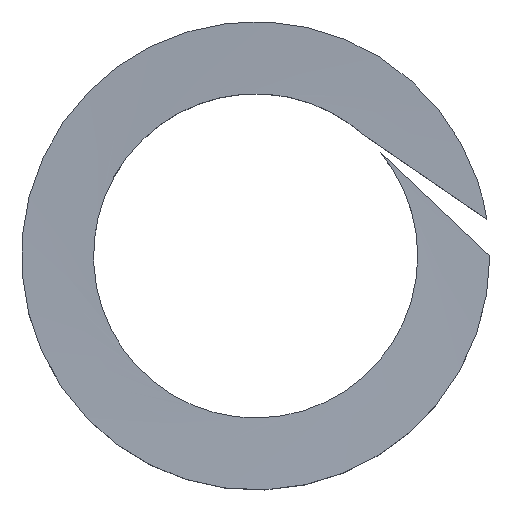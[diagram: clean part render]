
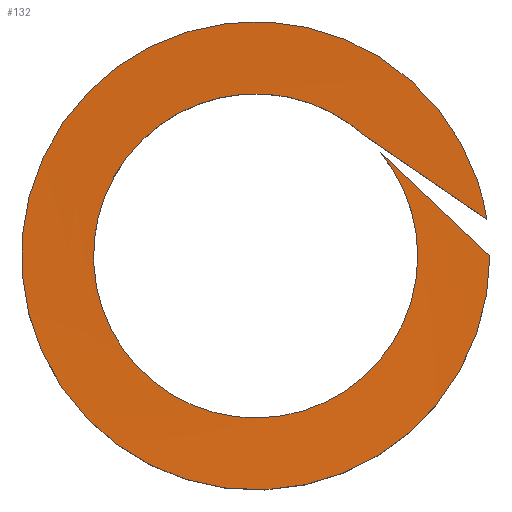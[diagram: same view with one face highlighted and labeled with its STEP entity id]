
A CAD part, top view. The second image highlights one B-rep face of the part: STEP entity #132.
In plain terms, the highlighted free-form (B-spline) face has degree [1, 2] with [2, 13] control points.
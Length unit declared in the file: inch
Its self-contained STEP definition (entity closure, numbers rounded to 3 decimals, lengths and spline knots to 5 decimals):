
#6 =( BOUNDED_CURVE ( )  B_SPLINE_CURVE ( 2, ( #47, #53, #45, #100, #40, #34, #56, #95, #32, #106, #84, #98, #105 ),
 .UNSPECIFIED., .F., .F. ) 
 B_SPLINE_CURVE_WITH_KNOTS ( ( 3, 2, 2, 2, 2, 2, 3 ),
 ( 0., 0.16667, 0.33333, 0.5, 0.66667, 0.83333, 1. ),
 .UNSPECIFIED. ) 
 CURVE ( )  GEOMETRIC_REPRESENTATION_ITEM ( )  RATIONAL_B_SPLINE_CURVE ( ( 1., 0.872, 1., 0.872, 1., 0.872, 1., 0.872, 1., 0.872, 1., 0.872, 1. ) ) 
 REPRESENTATION_ITEM ( '' )  );
#7 =( BOUNDED_CURVE ( )  B_SPLINE_CURVE ( 2, ( #75, #41, #39, #77, #42, #63, #74, #55, #163, #186, #216, #142, #140 ),
 .UNSPECIFIED., .F., .F. ) 
 B_SPLINE_CURVE_WITH_KNOTS ( ( 3, 2, 2, 2, 2, 2, 3 ),
 ( 0., 0.16667, 0.33333, 0.5, 0.66667, 0.83333, 1. ),
 .UNSPECIFIED. ) 
 CURVE ( )  GEOMETRIC_REPRESENTATION_ITEM ( )  RATIONAL_B_SPLINE_CURVE ( ( 1., 0.872, 1., 0.872, 1., 0.872, 1., 0.872, 1., 0.872, 1., 0.872, 1. ) ) 
 REPRESENTATION_ITEM ( '' )  );
#13 =( BOUNDED_SURFACE ( )  B_SPLINE_SURFACE ( 1, 2, ( 
 ( #224, #210, #188, #145, #205, #170, #214, #137, #157, #172, #197, #161, #227 ),
 ( #149, #182, #206, #192, #190, #166, #143, #159, #228, #141, #209, #144, #208 ) ),
 .UNSPECIFIED., .F., .F., .T. ) 
 B_SPLINE_SURFACE_WITH_KNOTS ( ( 2, 2 ),
 ( 3, 2, 2, 2, 2, 2, 3 ),
 ( 0., 1. ),
 ( 0., 0.16667, 0.33333, 0.5, 0.66667, 0.83333, 1. ),
 .UNSPECIFIED. ) 
 GEOMETRIC_REPRESENTATION_ITEM ( )  RATIONAL_B_SPLINE_SURFACE ( (
 ( 1., 0.872, 1., 0.872, 1., 0.872, 1., 0.872, 1., 0.872, 1., 0.872, 1.),
 ( 1., 0.872, 1., 0.872, 1., 0.872, 1., 0.872, 1., 0.872, 1., 0.872, 1.) ) ) 
 REPRESENTATION_ITEM ( '' )  SURFACE ( )  );
#18 = EDGE_CURVE ( 'NONE', #78, #82, #273, .T. ) ;
#19 = EDGE_CURVE ( 'NONE', #104, #73, #246, .T. ) ;
#22 = EDGE_CURVE ( 'NONE', #78, #104, #6, .T. ) ;
#27 = EDGE_CURVE ( 'NONE', #82, #73, #7, .T. ) ;
#32 = CARTESIAN_POINT ( 'NONE',  ( -0.05735, 0.01463, 0.02499 ) ) ;
#34 = CARTESIAN_POINT ( 'NONE',  ( -0.01934, -0.06503, 0.02255 ) ) ;
#39 = CARTESIAN_POINT ( 'NONE',  ( 0.04467, -0.0729, 0.02161 ) ) ;
#40 = CARTESIAN_POINT ( 'NONE',  ( 0.013, -0.05775, 0.02174 ) ) ;
#41 = CARTESIAN_POINT ( 'NONE',  ( 0.0855, -0.04788, 0.0208 ) ) ;
#42 = CARTESIAN_POINT ( 'NONE',  ( -0.03882, -0.07618, 0.02324 ) ) ;
#45 = CARTESIAN_POINT ( 'NONE',  ( 0.05603, -0.01909, 0.02011 ) ) ;
#47 = CARTESIAN_POINT ( 'NONE',  ( 0.04555, 0.0378, 0.01849 ) ) ;
#51 = CARTESIAN_POINT ( 'NONE',  ( 0.08445, 0.01338, 0.02974 ) ) ;
#53 = CARTESIAN_POINT ( 'NONE',  ( 0.06672, 0.01229, 0.0193 ) ) ;
#55 = CARTESIAN_POINT ( 'NONE',  ( -0.08899, 0.04103, 0.02567 ) ) ;
#56 = CARTESIAN_POINT ( 'NONE',  ( -0.04244, -0.04126, 0.02336 ) ) ;
#63 = CARTESIAN_POINT ( 'NONE',  ( -0.08148, -0.05444, 0.02405 ) ) ;
#73 = VERTEX_POINT ( 'NONE', #198 ) ;
#74 = CARTESIAN_POINT ( 'NONE',  ( -0.08524, -0.00671, 0.02486 ) ) ;
#75 = CARTESIAN_POINT ( 'NONE',  ( 0.0855, 0., 0.01999 ) ) ;
#77 = CARTESIAN_POINT ( 'NONE',  ( 0.00385, -0.09792, 0.02242 ) ) ;
#78 = VERTEX_POINT ( 'NONE', #191 ) ;
#82 = VERTEX_POINT ( 'NONE', #194 ) ;
#84 = CARTESIAN_POINT ( 'NONE',  ( -0.01749, 0.05655, 0.02661 ) ) ;
#86 = DIRECTION ( 'NONE',  ( 0.825, -0.565, 0.027 ) ) ;
#93 = DIRECTION ( 'NONE',  ( 0.726, -0.687, 0.027 ) ) ;
#95 = CARTESIAN_POINT ( 'NONE',  ( -0.06555, -0.01749, 0.02417 ) ) ;
#98 = CARTESIAN_POINT ( 'NONE',  ( 0.01418, 0.06634, 0.02742 ) ) ;
#99 = CARTESIAN_POINT ( 'NONE',  ( 0.0855, 0., 0.01999 ) ) ;
#100 = CARTESIAN_POINT ( 'NONE',  ( 0.04534, -0.05046, 0.02092 ) ) ;
#104 = VERTEX_POINT ( 'NONE', #148 ) ;
#105 = CARTESIAN_POINT ( 'NONE',  ( 0.03907, 0.04446, 0.02824 ) ) ;
#106 = CARTESIAN_POINT ( 'NONE',  ( -0.04916, 0.04675, 0.0258 ) ) ;
#117 = FACE_OUTER_BOUND ( 'NONE', #252, .T. ) ;
#132 = ADVANCED_FACE ( 'NONE', ( #117 ), #13, .F. ) ;
#137 = CARTESIAN_POINT ( 'NONE',  ( -0.06555, -0.01749, 0.02417 ) ) ;
#140 = CARTESIAN_POINT ( 'NONE',  ( 0.08445, 0.01338, 0.02974 ) ) ;
#141 = CARTESIAN_POINT ( 'NONE',  ( -0.01152, 0.09732, 0.0273 ) ) ;
#142 = CARTESIAN_POINT ( 'NONE',  ( 0.07696, 0.06067, 0.02892 ) ) ;
#143 = CARTESIAN_POINT ( 'NONE',  ( -0.08524, -0.00671, 0.02486 ) ) ;
#144 = CARTESIAN_POINT ( 'NONE',  ( 0.07696, 0.06067, 0.02892 ) ) ;
#145 = CARTESIAN_POINT ( 'NONE',  ( 0.04534, -0.05046, 0.02092 ) ) ;
#148 = CARTESIAN_POINT ( 'NONE',  ( 0.03907, 0.04446, 0.02824 ) ) ;
#149 = CARTESIAN_POINT ( 'NONE',  ( 0.0855, 0., 0.01999 ) ) ;
#157 = CARTESIAN_POINT ( 'NONE',  ( -0.05735, 0.01463, 0.02499 ) ) ;
#159 = CARTESIAN_POINT ( 'NONE',  ( -0.08899, 0.04103, 0.02567 ) ) ;
#161 = CARTESIAN_POINT ( 'NONE',  ( 0.01418, 0.06634, 0.02742 ) ) ;
#163 = CARTESIAN_POINT ( 'NONE',  ( -0.05026, 0.06917, 0.02649 ) ) ;
#166 = CARTESIAN_POINT ( 'NONE',  ( -0.08148, -0.05444, 0.02405 ) ) ;
#170 = CARTESIAN_POINT ( 'NONE',  ( -0.01934, -0.06503, 0.02255 ) ) ;
#172 = CARTESIAN_POINT ( 'NONE',  ( -0.04916, 0.04675, 0.0258 ) ) ;
#182 = CARTESIAN_POINT ( 'NONE',  ( 0.0855, -0.04788, 0.0208 ) ) ;
#186 = CARTESIAN_POINT ( 'NONE',  ( -0.01152, 0.09732, 0.0273 ) ) ;
#188 = CARTESIAN_POINT ( 'NONE',  ( 0.05603, -0.01909, 0.02011 ) ) ;
#190 = CARTESIAN_POINT ( 'NONE',  ( -0.03882, -0.07618, 0.02324 ) ) ;
#191 = CARTESIAN_POINT ( 'NONE',  ( 0.04555, 0.0378, 0.01849 ) ) ;
#192 = CARTESIAN_POINT ( 'NONE',  ( 0.00385, -0.09792, 0.02242 ) ) ;
#194 = CARTESIAN_POINT ( 'NONE',  ( 0.0855, 0., 0.01999 ) ) ;
#197 = CARTESIAN_POINT ( 'NONE',  ( -0.01749, 0.05655, 0.02661 ) ) ;
#198 = CARTESIAN_POINT ( 'NONE',  ( 0.08445, 0.01338, 0.02974 ) ) ;
#205 = CARTESIAN_POINT ( 'NONE',  ( 0.013, -0.05775, 0.02174 ) ) ;
#206 = CARTESIAN_POINT ( 'NONE',  ( 0.04467, -0.0729, 0.02161 ) ) ;
#208 = CARTESIAN_POINT ( 'NONE',  ( 0.08445, 0.01338, 0.02974 ) ) ;
#209 = CARTESIAN_POINT ( 'NONE',  ( 0.03272, 0.07899, 0.02811 ) ) ;
#210 = CARTESIAN_POINT ( 'NONE',  ( 0.06672, 0.01229, 0.0193 ) ) ;
#214 = CARTESIAN_POINT ( 'NONE',  ( -0.04244, -0.04126, 0.02336 ) ) ;
#216 = CARTESIAN_POINT ( 'NONE',  ( 0.03272, 0.07899, 0.02811 ) ) ;
#224 = CARTESIAN_POINT ( 'NONE',  ( 0.04555, 0.0378, 0.01849 ) ) ;
#227 = CARTESIAN_POINT ( 'NONE',  ( 0.03907, 0.04446, 0.02824 ) ) ;
#228 = CARTESIAN_POINT ( 'NONE',  ( -0.05026, 0.06917, 0.02649 ) ) ;
#246 = LINE ( 'NONE', #51, #248 ) ;
#248 = VECTOR ( 'NONE', #86, 39.37008 ) ;
#250 = ORIENTED_EDGE ( 'NONE', *, *, #19, .T. ) ;
#252 = EDGE_LOOP ( 'NONE', ( #255, #280, #257, #250 ) ) ;
#255 = ORIENTED_EDGE ( 'NONE', *, *, #27, .F. ) ;
#257 = ORIENTED_EDGE ( 'NONE', *, *, #22, .T. ) ;
#267 = VECTOR ( 'NONE', #93, 39.37008 ) ;
#273 = LINE ( 'NONE', #99, #267 ) ;
#280 = ORIENTED_EDGE ( 'NONE', *, *, #18, .F. ) ;
